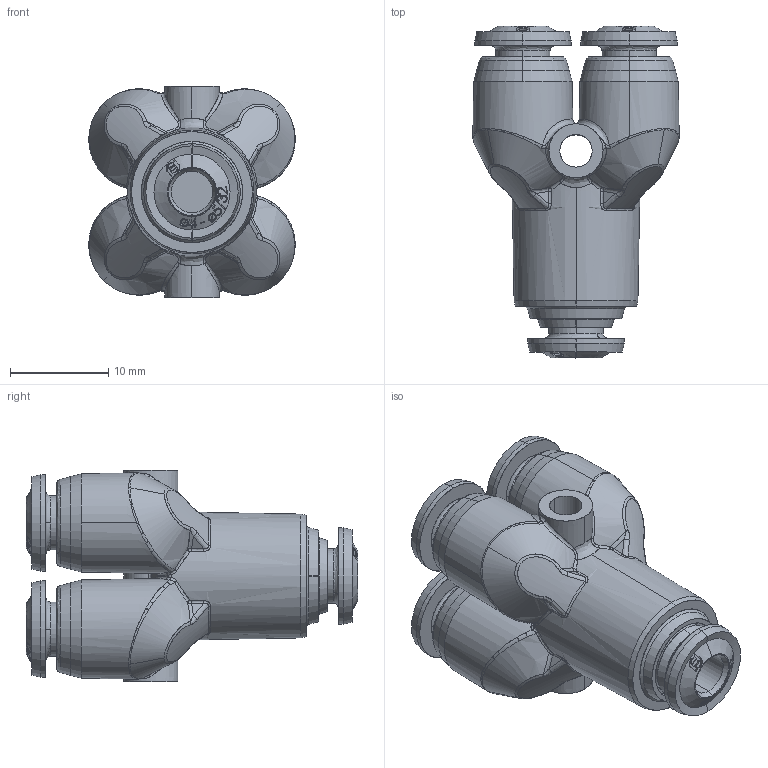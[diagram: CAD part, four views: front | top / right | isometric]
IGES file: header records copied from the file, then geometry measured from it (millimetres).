
Start section: SolidWorks IGES file using analytic representation for surfaces
Global section: file name: K:\Disegni Esecutivi\Serie 55000\ASSIEMI_55000\55330\ASSIEMI_.IGES_55330\5533000001A.IGS; native system: SolidWorks 2007; preprocessor: SolidWorks 2007; author: cad02; date: 071129.112913; units: millimetre
Bounding box: 21 x 33.76 x 21.5 mm (x, y, z)
Surface area: 4186.4 mm2 (no closed solid volume)
Topology: 0 solids, 0 shells, 1189 faces, 11134 edges, 11126 vertices
Faces by surface type: bspline 879, revolution 310
